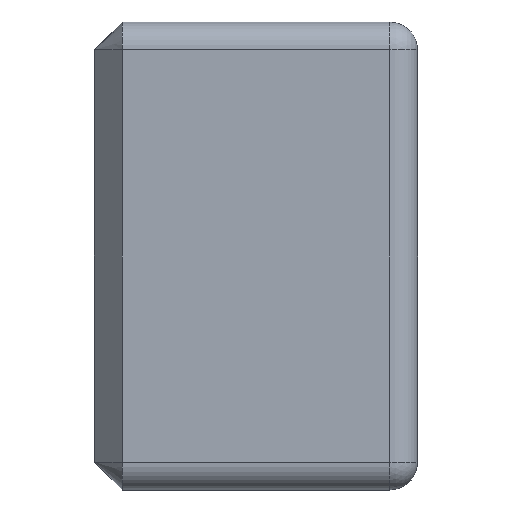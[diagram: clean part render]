
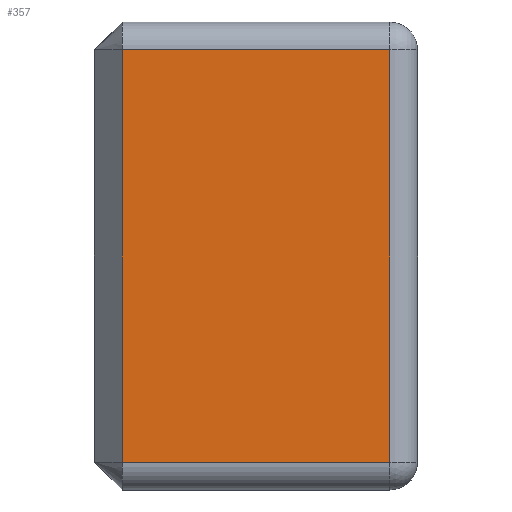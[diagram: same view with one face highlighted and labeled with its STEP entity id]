
A CAD part, left-side view. The second image highlights one B-rep face of the part: STEP entity #357.
In plain terms, the highlighted planar face has unit normal (-1, 0, 0).
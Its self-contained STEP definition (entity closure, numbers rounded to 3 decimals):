
#18 = EDGE_CURVE ( 'NONE', #49, #1160, #243, .T. ) ;
#42 = ORIENTED_EDGE ( 'NONE', *, *, #474, .T. ) ;
#49 = VERTEX_POINT ( 'NONE', #426 ) ;
#88 = CARTESIAN_POINT ( 'NONE',  ( -62., 24., -37. ) ) ;
#137 = VECTOR ( 'NONE', #1050, 1000. ) ;
#159 = CARTESIAN_POINT ( 'NONE',  ( -62., 29., -37. ) ) ;
#186 = CARTESIAN_POINT ( 'NONE',  ( -62., -24., -37. ) ) ;
#187 = VECTOR ( 'NONE', #838, 1000. ) ;
#243 = LINE ( 'NONE', #703, #1252 ) ;
#256 = ORIENTED_EDGE ( 'NONE', *, *, #341, .T. ) ;
#257 = FACE_OUTER_BOUND ( 'NONE', #587, .T. ) ;
#302 = CARTESIAN_POINT ( 'NONE',  ( -62., 29., -42. ) ) ;
#341 = EDGE_CURVE ( 'NONE', #651, #49, #1144, .T. ) ;
#357 = ADVANCED_FACE ( 'NONE', ( #257 ), #881, .F. ) ;
#402 = DIRECTION ( 'NONE',  ( 1., 0., 0. ) ) ;
#426 = CARTESIAN_POINT ( 'NONE',  ( -62., -24., 37. ) ) ;
#435 = LINE ( 'NONE', #974, #137 ) ;
#474 = EDGE_CURVE ( 'NONE', #1160, #666, #435, .T. ) ;
#587 = EDGE_LOOP ( 'NONE', ( #1097, #42, #822, #256 ) ) ;
#651 = VERTEX_POINT ( 'NONE', #186 ) ;
#666 = VERTEX_POINT ( 'NONE', #88 ) ;
#679 = CARTESIAN_POINT ( 'NONE',  ( -62., -24., -42. ) ) ;
#703 = CARTESIAN_POINT ( 'NONE',  ( -62., 29., 37. ) ) ;
#724 = DIRECTION ( 'NONE',  ( 0., 0., 1. ) ) ;
#796 = EDGE_CURVE ( 'NONE', #666, #651, #1196, .T. ) ;
#822 = ORIENTED_EDGE ( 'NONE', *, *, #796, .T. ) ;
#838 = DIRECTION ( 'NONE',  ( 0., -1., 0. ) ) ;
#881 = PLANE ( 'NONE',  #932 ) ;
#890 = DIRECTION ( 'NONE',  ( 0., 0., -1. ) ) ;
#932 = AXIS2_PLACEMENT_3D ( 'NONE', #302, #402, #890 ) ;
#974 = CARTESIAN_POINT ( 'NONE',  ( -62., 24., -37. ) ) ;
#1050 = DIRECTION ( 'NONE',  ( 0., 0., -1. ) ) ;
#1097 = ORIENTED_EDGE ( 'NONE', *, *, #18, .T. ) ;
#1098 = DIRECTION ( 'NONE',  ( 0., 1., 0. ) ) ;
#1112 = VECTOR ( 'NONE', #724, 1000. ) ;
#1114 = CARTESIAN_POINT ( 'NONE',  ( -62., 24., 37. ) ) ;
#1144 = LINE ( 'NONE', #679, #1112 ) ;
#1160 = VERTEX_POINT ( 'NONE', #1114 ) ;
#1196 = LINE ( 'NONE', #159, #187 ) ;
#1252 = VECTOR ( 'NONE', #1098, 1000. ) ;
